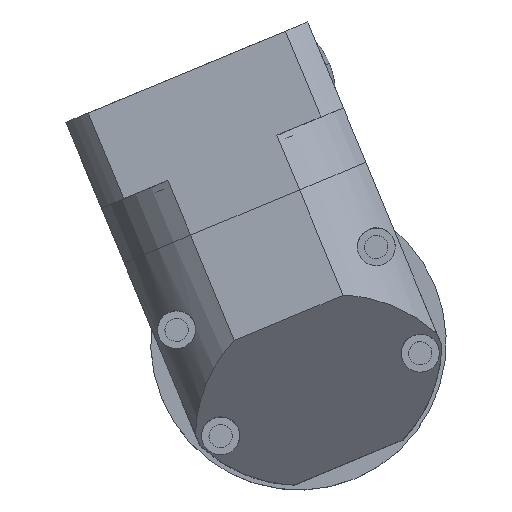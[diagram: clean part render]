
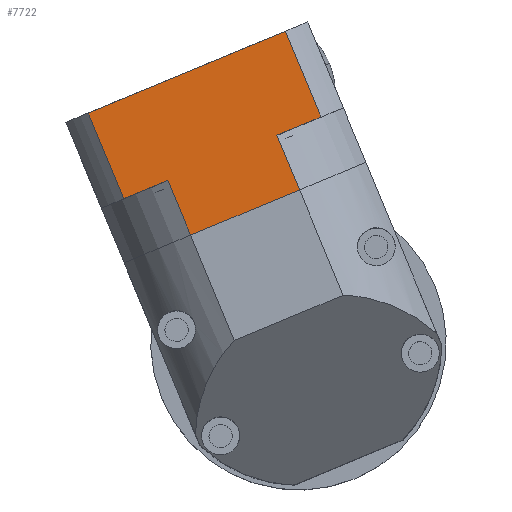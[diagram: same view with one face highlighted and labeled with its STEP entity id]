
A CAD part, top view. The second image highlights one B-rep face of the part: STEP entity #7722.
In plain terms, the highlighted planar face has unit normal (0, 0, 1).
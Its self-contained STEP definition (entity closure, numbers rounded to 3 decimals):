
#54 = CARTESIAN_POINT ( 'NONE',  ( -67.335, -124.396, 114.248 ) ) ;
#437 = DIRECTION ( 'NONE',  ( 0.924, 0.383, 0. ) ) ;
#747 = VERTEX_POINT ( 'NONE', #6615 ) ;
#1140 = CARTESIAN_POINT ( 'NONE',  ( -86.213, -108.408, 114.248 ) ) ;
#1237 = DIRECTION ( 'NONE',  ( 0.383, -0.924, 0. ) ) ;
#1372 = LINE ( 'NONE', #4948, #7749 ) ;
#1459 = DIRECTION ( 'NONE',  ( 0.383, -0.924, 0. ) ) ;
#1649 = VERTEX_POINT ( 'NONE', #8208 ) ;
#1685 = CARTESIAN_POINT ( 'NONE',  ( -67.335, -124.396, 114.248 ) ) ;
#1933 = CARTESIAN_POINT ( 'NONE',  ( -86.213, -108.408, 114.248 ) ) ;
#2064 = VERTEX_POINT ( 'NONE', #1140 ) ;
#2105 = LINE ( 'NONE', #11093, #5687 ) ;
#2261 = LINE ( 'NONE', #7742, #10691 ) ;
#2326 = VERTEX_POINT ( 'NONE', #10405 ) ;
#2351 = ORIENTED_EDGE ( 'NONE', *, *, #4066, .F. ) ;
#2497 = PLANE ( 'NONE',  #8958 ) ;
#2625 = DIRECTION ( 'NONE',  ( 0.924, 0.383, 0. ) ) ;
#2783 = CARTESIAN_POINT ( 'NONE',  ( -67.335, -124.396, 114.248 ) ) ;
#2816 = LINE ( 'NONE', #1933, #3942 ) ;
#3070 = VECTOR ( 'NONE', #3721, 1000. ) ;
#3099 = EDGE_LOOP ( 'NONE', ( #7580, #7326, #6614, #2351, #5443, #5624, #4866, #4856 ) ) ;
#3366 = EDGE_CURVE ( 'NONE', #2064, #9838, #2816, .T. ) ;
#3479 = DIRECTION ( 'NONE',  ( 0.383, -0.924, 0. ) ) ;
#3613 = EDGE_CURVE ( 'NONE', #9838, #8261, #1372, .T. ) ;
#3721 = DIRECTION ( 'NONE',  ( 0.924, 0.383, 0. ) ) ;
#3925 = EDGE_CURVE ( 'NONE', #2326, #6433, #2105, .T. ) ;
#3942 = VECTOR ( 'NONE', #5580, 1000. ) ;
#4066 = EDGE_CURVE ( 'NONE', #747, #4570, #7703, .T. ) ;
#4339 = DIRECTION ( 'NONE',  ( 0.924, 0.383, 0. ) ) ;
#4517 = VECTOR ( 'NONE', #1459, 1000. ) ;
#4570 = VERTEX_POINT ( 'NONE', #5823 ) ;
#4856 = ORIENTED_EDGE ( 'NONE', *, *, #5657, .T. ) ;
#4866 = ORIENTED_EDGE ( 'NONE', *, *, #3613, .T. ) ;
#4948 = CARTESIAN_POINT ( 'NONE',  ( -77.786, -128.73, 114.248 ) ) ;
#5368 = VECTOR ( 'NONE', #3479, 1000. ) ;
#5443 = ORIENTED_EDGE ( 'NONE', *, *, #5784, .F. ) ;
#5494 = DIRECTION ( 'NONE',  ( -0.383, 0.924, 0. ) ) ;
#5580 = DIRECTION ( 'NONE',  ( 0.383, -0.924, 0. ) ) ;
#5624 = ORIENTED_EDGE ( 'NONE', *, *, #3366, .T. ) ;
#5657 = EDGE_CURVE ( 'NONE', #8261, #1649, #9972, .T. ) ;
#5687 = VECTOR ( 'NONE', #1237, 1000. ) ;
#5784 = EDGE_CURVE ( 'NONE', #2064, #747, #11099, .T. ) ;
#5823 = CARTESIAN_POINT ( 'NONE',  ( -31.085, -109.364, 114.248 ) ) ;
#6204 = EDGE_CURVE ( 'NONE', #1649, #6433, #7294, .T. ) ;
#6433 = VERTEX_POINT ( 'NONE', #11269 ) ;
#6614 = ORIENTED_EDGE ( 'NONE', *, *, #10141, .T. ) ;
#6615 = CARTESIAN_POINT ( 'NONE',  ( -39.512, -89.042, 114.248 ) ) ;
#7294 = LINE ( 'NONE', #10898, #9742 ) ;
#7326 = ORIENTED_EDGE ( 'NONE', *, *, #3925, .F. ) ;
#7580 = ORIENTED_EDGE ( 'NONE', *, *, #6204, .T. ) ;
#7703 = LINE ( 'NONE', #11334, #4517 ) ;
#7722 = ADVANCED_FACE ( 'NONE', ( #11553 ), #2497, .F. ) ;
#7742 = CARTESIAN_POINT ( 'NONE',  ( -77.786, -128.73, 114.248 ) ) ;
#7749 = VECTOR ( 'NONE', #437, 1000. ) ;
#8208 = CARTESIAN_POINT ( 'NONE',  ( -61.972, -137.328, 114.248 ) ) ;
#8261 = VERTEX_POINT ( 'NONE', #2783 ) ;
#8958 = AXIS2_PLACEMENT_3D ( 'NONE', #1685, #8996, #5494 ) ;
#8996 = DIRECTION ( 'NONE',  ( 0., 0., -1. ) ) ;
#9742 = VECTOR ( 'NONE', #2625, 1000. ) ;
#9785 = CARTESIAN_POINT ( 'NONE',  ( -77.786, -128.73, 114.248 ) ) ;
#9838 = VERTEX_POINT ( 'NONE', #9785 ) ;
#9972 = LINE ( 'NONE', #54, #5368 ) ;
#10141 = EDGE_CURVE ( 'NONE', #2326, #4570, #2261, .T. ) ;
#10405 = CARTESIAN_POINT ( 'NONE',  ( -41.537, -113.698, 114.248 ) ) ;
#10691 = VECTOR ( 'NONE', #4339, 1000. ) ;
#10898 = CARTESIAN_POINT ( 'NONE',  ( -61.972, -137.328, 114.248 ) ) ;
#10974 = CARTESIAN_POINT ( 'NONE',  ( -86.213, -108.408, 114.248 ) ) ;
#11093 = CARTESIAN_POINT ( 'NONE',  ( -41.537, -113.698, 114.248 ) ) ;
#11099 = LINE ( 'NONE', #10974, #3070 ) ;
#11269 = CARTESIAN_POINT ( 'NONE',  ( -36.174, -126.63, 114.248 ) ) ;
#11334 = CARTESIAN_POINT ( 'NONE',  ( -39.512, -89.042, 114.248 ) ) ;
#11553 = FACE_OUTER_BOUND ( 'NONE', #3099, .T. ) ;
